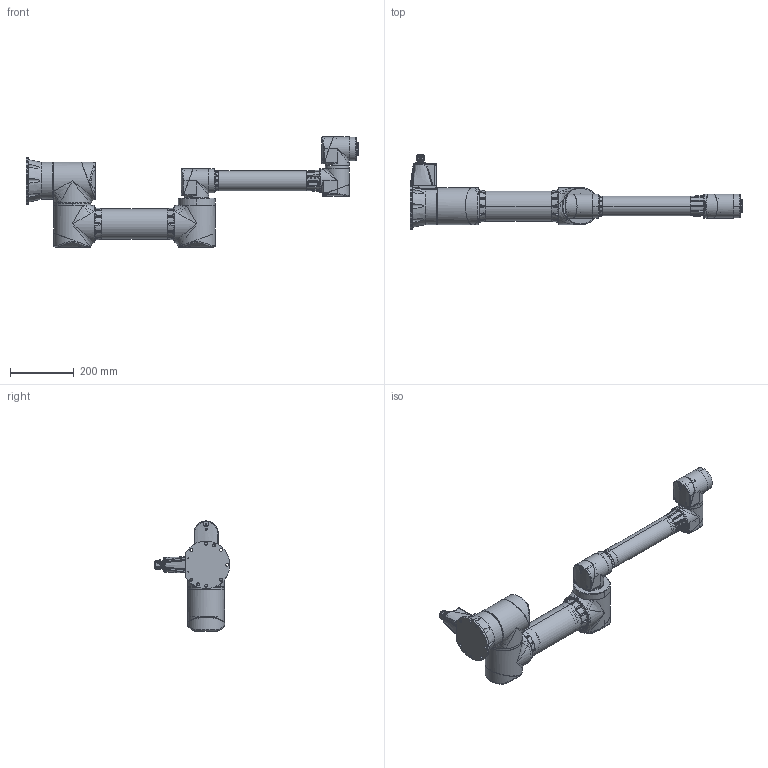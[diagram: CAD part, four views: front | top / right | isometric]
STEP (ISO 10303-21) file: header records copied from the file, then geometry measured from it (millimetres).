
FILE_DESCRIPTION((''),'2;1');
FILE_NAME('ZRA_0507N_ASM','2022-10-12T16:04:45',('SonJeongWon'),(''),'CREO PARAMETRIC BY PTC INC, 2020354','CREO PARAMETRIC BY PTC INC, 2020354','');
FILE_SCHEMA(('CONFIG_CONTROL_DESIGN'));
Products named in the file (25): FLANGE_B; HOLDER_M; COVER_M; MODULE_M_ASM; RING_M; ARM1_PIPE; FLANGE_ARM1; ARM1_ASM; FLANGE_J3; HOLDER_S; COVER_S; MODULE_S_ASM; PIPE2; FLANGE_J4; FLANGE_J5; PLATE; PORT; ARM2_ASM; FLANGE_E; RING_S; COVER_J; CABLE; PLATE_J; COVER_J_ASM; ZRA_0507N_ASM
Assembly tree (29 placements, depth 3):
  ZRA_0507N_ASM
    FLANGE_B
    MODULE_M_ASM  x3
      HOLDER_M
      COVER_M
    RING_M
    ARM1_ASM
      ARM1_PIPE
      FLANGE_ARM1  x2
    FLANGE_J3
    MODULE_S_ASM  x3
      HOLDER_S
      COVER_S
    ARM2_ASM
      PIPE2
      FLANGE_J4
      FLANGE_J5
      PLATE
      PORT
    FLANGE_E
    RING_S
    COVER_J_ASM
      COVER_J
      CABLE
      PLATE_J
Bounding box: 1040.1 x 237.3 x 344.89 mm (x, y, z)
Volume: 12153557.1 mm3; surface area: 933733.5 mm2
Topology: 28 solids, 212 shells, 3861 faces, 10478 edges, 6914 vertices
Faces by surface type: cylinder 1409, plane 1297, bspline 650, torus 269, cone 210, sphere 18, extrusion 8
Entity records: 146255 total; most frequent: CARTESIAN_POINT 72340, ORIENTED_EDGE 16264, DIRECTION 13894, EDGE_CURVE 8266, VERTEX_POINT 5414, AXIS2_PLACEMENT_3D 5218, VECTOR 3458, LINE 3450
